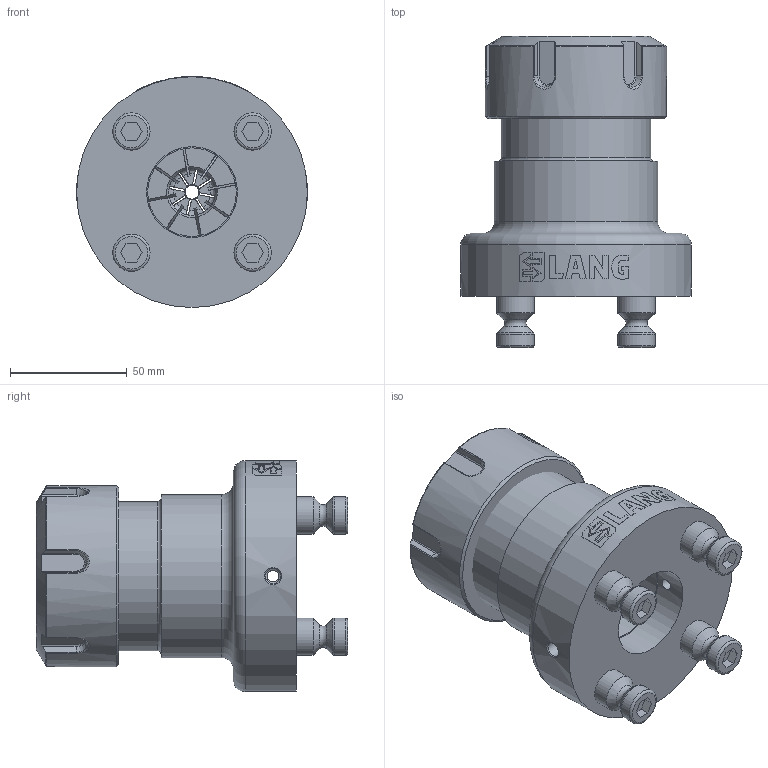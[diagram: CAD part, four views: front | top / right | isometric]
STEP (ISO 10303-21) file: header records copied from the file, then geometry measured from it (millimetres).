
FILE_DESCRIPTION (( 'STEP AP214' ), '1' );
FILE_NAME ('41052_06.STEP', '2020-03-16T13:29:03', ( '' ), ( '' ), 'SwSTEP 2.0', 'SolidWorks 2019', '' );
FILE_SCHEMA (( 'AUTOMOTIVE_DESIGN' ));
Length unit declared in the file: millimetre
Products named in the file (1): 41052_06
Bounding box: 99 x 133.46 x 99.1 mm (x, y, z)
Volume: 459816.5 mm3; surface area: 115801.1 mm2
Topology: 7 solids, 7 shells, 585 faces, 1607 edges, 1045 vertices
Faces by surface type: plane 295, cone 102, bspline 100, cylinder 72, torus 16
Full cylindrical faces by diameter (mm): 5 x2, 6 x1, 6.5 x2, 6.8 x8, 12 x8, 16 x8, 38 x1, 39 x1, 42.8 x1, 50 x1, 61.835 x1, 64 x1, 64.5 x1, 70 x1, 77.7 x1, 99 x1
Entity records: 28414 total; most frequent: CARTESIAN_POINT 8658, ORIENTED_EDGE 3000, DIRECTION 2285, EDGE_CURVE 1500, VERTEX_POINT 1026, AXIS2_PLACEMENT_3D 823, EDGE_LOOP 708, FACE_OUTER_BOUND 643
